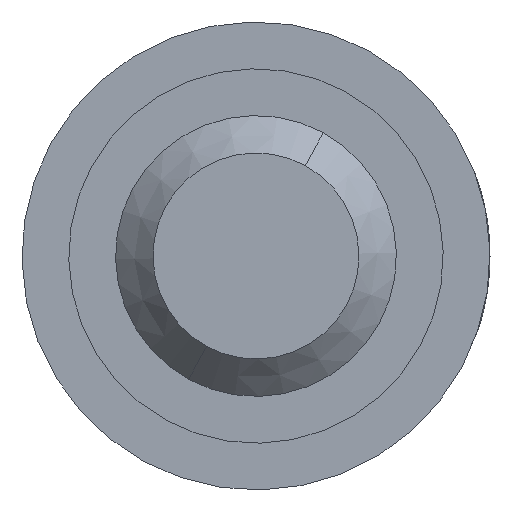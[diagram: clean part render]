
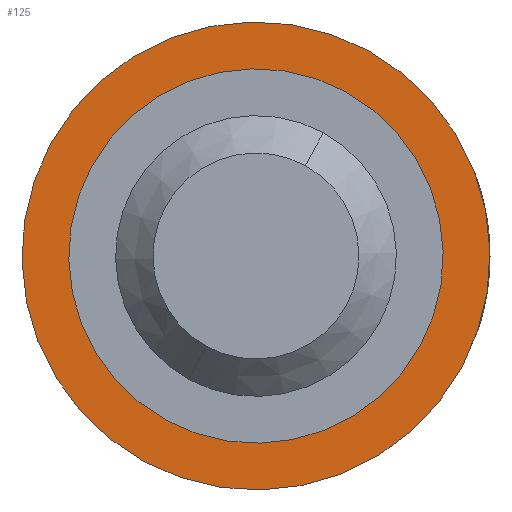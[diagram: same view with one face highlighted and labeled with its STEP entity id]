
A CAD part, front view. The second image highlights one B-rep face of the part: STEP entity #125.
In plain terms, the highlighted planar face has unit normal (0, -1, 0).
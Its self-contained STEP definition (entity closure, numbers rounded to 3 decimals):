
#84=CARTESIAN_POINT('Axis2P3D Location',(-440.,-89.5,187.5)) ;
#89=CARTESIAN_POINT('Axis2P3D Location',(-440.,-89.5,183.5)) ;
#93=CARTESIAN_POINT('Vertex',(-437.603,-89.5,187.888)) ;
#95=CARTESIAN_POINT('Vertex',(-442.397,-89.5,179.112)) ;
#98=CARTESIAN_POINT('Axis2P3D Location',(-440.,-89.5,183.5)) ;
#107=CARTESIAN_POINT('Axis2P3D Location',(-440.,-89.5,183.5)) ;
#111=CARTESIAN_POINT('Vertex',(-441.918,-89.5,179.99)) ;
#113=CARTESIAN_POINT('Vertex',(-438.082,-89.5,187.01)) ;
#116=CARTESIAN_POINT('Axis2P3D Location',(-440.,-89.5,183.5)) ;
#85=DIRECTION('Axis2P3D Direction',(-0.,1.,0.)) ;
#86=DIRECTION('Axis2P3D XDirection',(1.,0.,0.)) ;
#90=DIRECTION('Axis2P3D Direction',(-0.,1.,0.)) ;
#99=DIRECTION('Axis2P3D Direction',(-0.,1.,0.)) ;
#108=DIRECTION('Axis2P3D Direction',(-0.,1.,0.)) ;
#117=DIRECTION('Axis2P3D Direction',(-0.,1.,0.)) ;
#87=AXIS2_PLACEMENT_3D('Plane Axis2P3D',#84,#85,#86) ;
#91=AXIS2_PLACEMENT_3D('Circle Axis2P3D',#89,#90,$) ;
#100=AXIS2_PLACEMENT_3D('Circle Axis2P3D',#98,#99,$) ;
#109=AXIS2_PLACEMENT_3D('Circle Axis2P3D',#107,#108,$) ;
#118=AXIS2_PLACEMENT_3D('Circle Axis2P3D',#116,#117,$) ;
#104=ORIENTED_EDGE('',*,*,#97,.F.) ;
#105=ORIENTED_EDGE('',*,*,#102,.F.) ;
#122=ORIENTED_EDGE('',*,*,#115,.T.) ;
#123=ORIENTED_EDGE('',*,*,#120,.T.) ;
#124=FACE_BOUND('',#121,.T.) ;
#125=ADVANCED_FACE('MAIN',(#106,#124),#88,.F.) ;
#92=CIRCLE('generated circle',#91,5.) ;
#101=CIRCLE('generated circle',#100,5.) ;
#110=CIRCLE('generated circle',#109,4.) ;
#119=CIRCLE('generated circle',#118,4.) ;
#97=EDGE_CURVE('',#94,#96,#92,.T.) ;
#102=EDGE_CURVE('',#96,#94,#101,.T.) ;
#115=EDGE_CURVE('',#112,#114,#110,.T.) ;
#120=EDGE_CURVE('',#114,#112,#119,.T.) ;
#103=EDGE_LOOP('',(#104,#105)) ;
#121=EDGE_LOOP('',(#122,#123)) ;
#106=FACE_OUTER_BOUND('',#103,.T.) ;
#88=PLANE('',#87) ;
#94=VERTEX_POINT('',#93) ;
#96=VERTEX_POINT('',#95) ;
#112=VERTEX_POINT('',#111) ;
#114=VERTEX_POINT('',#113) ;
